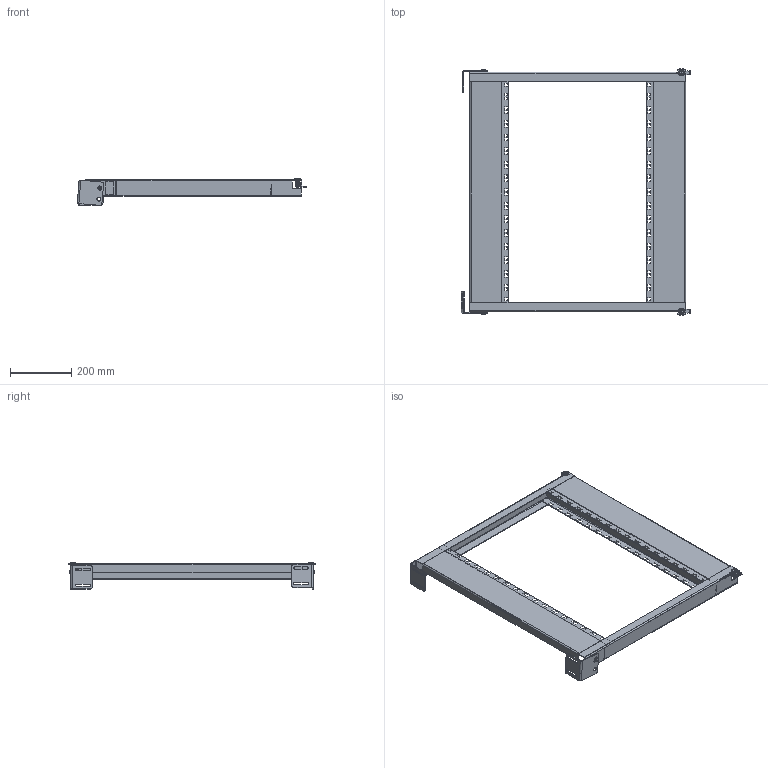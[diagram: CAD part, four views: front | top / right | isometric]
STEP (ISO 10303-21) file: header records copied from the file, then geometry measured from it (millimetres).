
FILE_DESCRIPTION (( 'STEP AP203' ), '1' );
FILE_NAME ('99960.step', '2013-04-16T08:38:43', ( '' ), ( '' ), 'SwSTEP 2.0', 'SolidWorks 2010', '' );
FILE_SCHEMA (( 'CONFIG_CONTROL_DESIGN' ));
Length unit declared in the file: inch
Products named in the file (24): 87783287; 99960; 87783285; 87576477; 87576479; 87783283; 87576469; 87783351; 87781512_FLEXIBLE; 11258005; 99401075_OPEN; 87412756; 87959735; 87959742; 87412755; 87959725; 87959730; 87959739; 87957079; 99414894; 11158474_11158474; 22101021; 26132026_26132002; 87576463
Assembly tree (31 placements, depth 5):
  99960
    87783287
      87576479
      87783283
      87576469  x2
      87783285
      87783351  x2
      87576477
    87781512_FLEXIBLE
      99401075_OPEN  x2
        87412756
          87959742
          87959735
        99414894
        87957079
        87412755
          87959739
          87959730
          87959725
      87576463  x2
      26132026_26132002  x2
      22101021  x2
      11258005  x2
      11158474_11158474  x2
Bounding box: 747.59 x 801.8 x 86.77 mm (x, y, z)
Volume: 1253299 mm3; surface area: 1059432.4 mm2
Topology: 26 solids, 38 shells, 1642 faces, 4277 edges, 2714 vertices
Faces by surface type: plane 1110, cylinder 384, bspline 62, cone 62, torus 24
Entity records: 40900 total; most frequent: CARTESIAN_POINT 8294, ORIENTED_EDGE 6242, DIRECTION 5827, EDGE_CURVE 3127, LINE 2535, VECTOR 2535, VERTEX_POINT 2013, AXIS2_PLACEMENT_3D 1646
